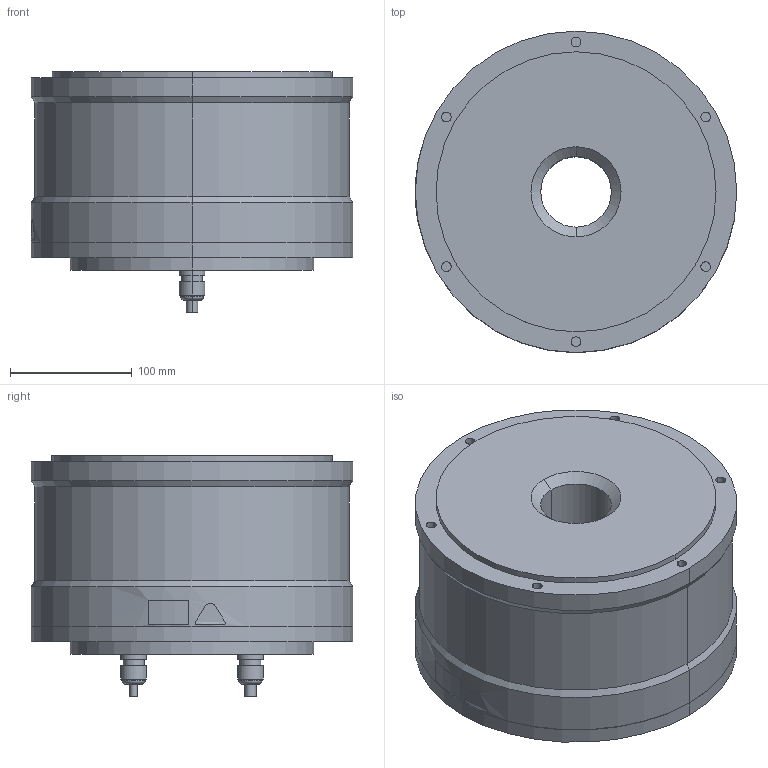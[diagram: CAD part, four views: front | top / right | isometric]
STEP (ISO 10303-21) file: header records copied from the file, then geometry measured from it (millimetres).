
FILE_DESCRIPTION (( 'STEP AP203' ), '1' );
FILE_NAME ('sgm7d_90f_c5_.STEP', '2016-02-22T08:01:26', ( '' ), ( '' ), 'SwSTEP 2.0', 'SolidWorks 2010', '' );
FILE_SCHEMA (( 'CONFIG_CONTROL_DESIGN' ));
Length unit declared in the file: millimetre
Products named in the file (1): sgm7d_90f_c5_
Bounding box: 264.08 x 264 x 197.8 mm (x, y, z)
Volume: 7969011.9 mm3; surface area: 280376.3 mm2
Topology: 1 solids, 1 shells, 224 faces, 476 edges, 310 vertices
Faces by surface type: cylinder 136, plane 73, cone 6, bspline 5, torus 4
Entity records: 6429 total; most frequent: CARTESIAN_POINT 1250, DIRECTION 1200, ORIENTED_EDGE 952, AXIS2_PLACEMENT_3D 520, EDGE_CURVE 476, VERTEX_POINT 310, CIRCLE 300, EDGE_LOOP 282
